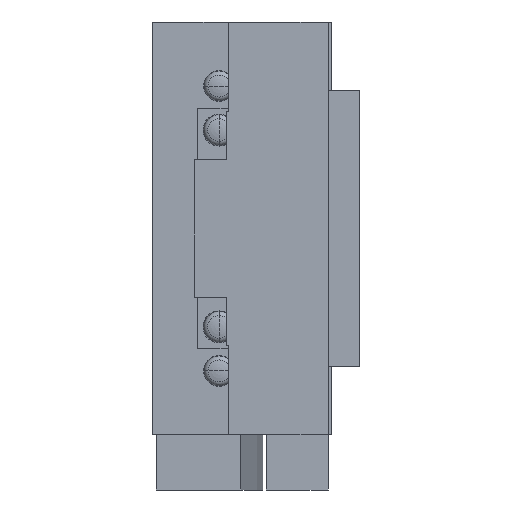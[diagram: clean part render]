
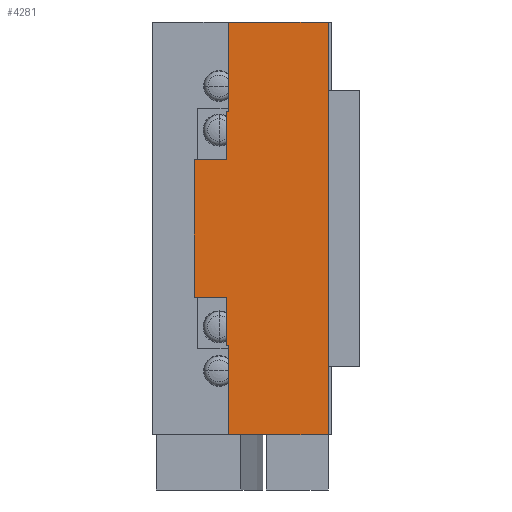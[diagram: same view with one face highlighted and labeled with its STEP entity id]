
A CAD part, left-side view. The second image highlights one B-rep face of the part: STEP entity #4281.
In plain terms, the highlighted planar face has unit normal (-1, 0, 0).
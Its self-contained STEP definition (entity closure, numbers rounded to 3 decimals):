
#66 = VECTOR ( 'NONE', #5232, 1000. ) ;
#92 = AXIS2_PLACEMENT_3D ( 'NONE', #2922, #2933, #2934 ) ;
#151 = VECTOR ( 'NONE', #5081, 1000. ) ;
#164 = VECTOR ( 'NONE', #5179, 1000. ) ;
#250 = VECTOR ( 'NONE', #5185, 1000. ) ;
#275 = VECTOR ( 'NONE', #5047, 1000. ) ;
#410 = VECTOR ( 'NONE', #5069, 1000. ) ;
#434 = VECTOR ( 'NONE', #5066, 1000. ) ;
#441 = VECTOR ( 'NONE', #5087, 1000. ) ;
#467 = VECTOR ( 'NONE', #5222, 1000. ) ;
#474 = VECTOR ( 'NONE', #5245, 1000. ) ;
#530 = VECTOR ( 'NONE', #5235, 1000. ) ;
#548 = VECTOR ( 'NONE', #5108, 1000. ) ;
#599 = EDGE_CURVE ( 'NONE', #4600, #4597, #5163, .T. ) ;
#601 = EDGE_CURVE ( 'NONE', #4596, #4600, #5181, .T. ) ;
#613 = EDGE_CURVE ( 'NONE', #4097, #4096, #5219, .T. ) ;
#617 = EDGE_CURVE ( 'NONE', #4092, #4097, #5230, .T. ) ;
#618 = EDGE_CURVE ( 'NONE', #4597, #4601, #5233, .T. ) ;
#621 = EDGE_CURVE ( 'NONE', #4599, #4099, #5241, .T. ) ;
#636 = EDGE_CURVE ( 'NONE', #4599, #4092, #5045, .T. ) ;
#642 = EDGE_CURVE ( 'NONE', #4099, #4596, #5058, .T. ) ;
#643 = EDGE_CURVE ( 'NONE', #4601, #4602, #5067, .T. ) ;
#647 = EDGE_CURVE ( 'NONE', #4594, #4602, #5071, .T. ) ;
#649 = EDGE_CURVE ( 'NONE', #4598, #4594, #5085, .T. ) ;
#656 = EDGE_CURVE ( 'NONE', #4096, #4598, #5092, .T. ) ;
#1476 = EDGE_LOOP ( 'NONE', ( #4126, #6019, #6015, #4112, #4113, #6023, #6024, #6021, #6022, #6025, #2205, #5954 ) ) ;
#2205 = ORIENTED_EDGE ( 'NONE', *, *, #613, .T. ) ;
#2876 = CARTESIAN_POINT ( 'NONE',  ( -38., 10., -10. ) ) ;
#2880 = CARTESIAN_POINT ( 'NONE',  ( -38., 5.335, -17. ) ) ;
#2881 = CARTESIAN_POINT ( 'NONE',  ( -38., 5.335, -10. ) ) ;
#2883 = CARTESIAN_POINT ( 'NONE',  ( -38., 5.335, 10. ) ) ;
#2922 = CARTESIAN_POINT ( 'NONE',  ( -38., 10., 30. ) ) ;
#2930 = FACE_OUTER_BOUND ( 'NONE', #1476, .T. ) ;
#2931 = PLANE ( 'NONE',  #92 ) ;
#2933 = DIRECTION ( 'NONE',  ( 1., 0., 0. ) ) ;
#2934 = DIRECTION ( 'NONE',  ( 0., 0., -1. ) ) ;
#4092 = VERTEX_POINT ( 'NONE', #2876 ) ;
#4096 = VERTEX_POINT ( 'NONE', #2880 ) ;
#4097 = VERTEX_POINT ( 'NONE', #2881 ) ;
#4099 = VERTEX_POINT ( 'NONE', #2883 ) ;
#4112 = ORIENTED_EDGE ( 'NONE', *, *, #618, .F. ) ;
#4113 = ORIENTED_EDGE ( 'NONE', *, *, #599, .F. ) ;
#4126 = ORIENTED_EDGE ( 'NONE', *, *, #649, .T. ) ;
#4281 = ADVANCED_FACE ( 'NONE', ( #2930 ), #2931, .F. ) ;
#4594 = VERTEX_POINT ( 'NONE', #5452 ) ;
#4596 = VERTEX_POINT ( 'NONE', #5457 ) ;
#4597 = VERTEX_POINT ( 'NONE', #5458 ) ;
#4598 = VERTEX_POINT ( 'NONE', #5459 ) ;
#4599 = VERTEX_POINT ( 'NONE', #5460 ) ;
#4600 = VERTEX_POINT ( 'NONE', #5447 ) ;
#4601 = VERTEX_POINT ( 'NONE', #5455 ) ;
#4602 = VERTEX_POINT ( 'NONE', #5461 ) ;
#5045 = LINE ( 'NONE', #5046, #275 ) ;
#5046 = CARTESIAN_POINT ( 'NONE',  ( -38., 10., 30. ) ) ;
#5047 = DIRECTION ( 'NONE',  ( 0., 0., -1. ) ) ;
#5052 = CARTESIAN_POINT ( 'NONE',  ( -38., 5.335, 10. ) ) ;
#5058 = LINE ( 'NONE', #5052, #434 ) ;
#5066 = DIRECTION ( 'NONE',  ( 0., 0., 1. ) ) ;
#5067 = LINE ( 'NONE', #5068, #410 ) ;
#5068 = CARTESIAN_POINT ( 'NONE',  ( -38., -9.5, 30. ) ) ;
#5069 = DIRECTION ( 'NONE',  ( 0., 0., -1. ) ) ;
#5071 = LINE ( 'NONE', #5080, #151 ) ;
#5080 = CARTESIAN_POINT ( 'NONE',  ( -38., 10., -30. ) ) ;
#5081 = DIRECTION ( 'NONE',  ( 0., -1., 0. ) ) ;
#5085 = LINE ( 'NONE', #5086, #441 ) ;
#5086 = CARTESIAN_POINT ( 'NONE',  ( -38., 5.023, -17. ) ) ;
#5087 = DIRECTION ( 'NONE',  ( 0., 0., -1. ) ) ;
#5092 = LINE ( 'NONE', #5107, #548 ) ;
#5107 = CARTESIAN_POINT ( 'NONE',  ( -38., 5.335, -17. ) ) ;
#5108 = DIRECTION ( 'NONE',  ( 0., -1., 0. ) ) ;
#5163 = LINE ( 'NONE', #5177, #164 ) ;
#5177 = CARTESIAN_POINT ( 'NONE',  ( -38., 5.023, 17. ) ) ;
#5178 = CARTESIAN_POINT ( 'NONE',  ( -38., 5.335, 17. ) ) ;
#5179 = DIRECTION ( 'NONE',  ( 0., 0., 1. ) ) ;
#5181 = LINE ( 'NONE', #5178, #250 ) ;
#5185 = DIRECTION ( 'NONE',  ( 0., -1., 0. ) ) ;
#5219 = LINE ( 'NONE', #5221, #467 ) ;
#5221 = CARTESIAN_POINT ( 'NONE',  ( -38., 5.335, -10. ) ) ;
#5222 = DIRECTION ( 'NONE',  ( 0., 0., -1. ) ) ;
#5230 = LINE ( 'NONE', #5231, #66 ) ;
#5231 = CARTESIAN_POINT ( 'NONE',  ( -38., 10., -10. ) ) ;
#5232 = DIRECTION ( 'NONE',  ( 0., -1., 0. ) ) ;
#5233 = LINE ( 'NONE', #5234, #530 ) ;
#5234 = CARTESIAN_POINT ( 'NONE',  ( -38., 10., 30. ) ) ;
#5235 = DIRECTION ( 'NONE',  ( 0., -1., 0. ) ) ;
#5236 = CARTESIAN_POINT ( 'NONE',  ( -38., 10., 10. ) ) ;
#5241 = LINE ( 'NONE', #5236, #474 ) ;
#5245 = DIRECTION ( 'NONE',  ( 0., -1., 0. ) ) ;
#5447 = CARTESIAN_POINT ( 'NONE',  ( -38., 5.023, 17. ) ) ;
#5452 = CARTESIAN_POINT ( 'NONE',  ( -38., 5.023, -30. ) ) ;
#5455 = CARTESIAN_POINT ( 'NONE',  ( -38., -9.5, 30. ) ) ;
#5457 = CARTESIAN_POINT ( 'NONE',  ( -38., 5.335, 17. ) ) ;
#5458 = CARTESIAN_POINT ( 'NONE',  ( -38., 5.023, 30. ) ) ;
#5459 = CARTESIAN_POINT ( 'NONE',  ( -38., 5.023, -17. ) ) ;
#5460 = CARTESIAN_POINT ( 'NONE',  ( -38., 10., 10. ) ) ;
#5461 = CARTESIAN_POINT ( 'NONE',  ( -38., -9.5, -30. ) ) ;
#5954 = ORIENTED_EDGE ( 'NONE', *, *, #656, .T. ) ;
#6015 = ORIENTED_EDGE ( 'NONE', *, *, #643, .F. ) ;
#6019 = ORIENTED_EDGE ( 'NONE', *, *, #647, .T. ) ;
#6021 = ORIENTED_EDGE ( 'NONE', *, *, #621, .F. ) ;
#6022 = ORIENTED_EDGE ( 'NONE', *, *, #636, .T. ) ;
#6023 = ORIENTED_EDGE ( 'NONE', *, *, #601, .F. ) ;
#6024 = ORIENTED_EDGE ( 'NONE', *, *, #642, .F. ) ;
#6025 = ORIENTED_EDGE ( 'NONE', *, *, #617, .T. ) ;
